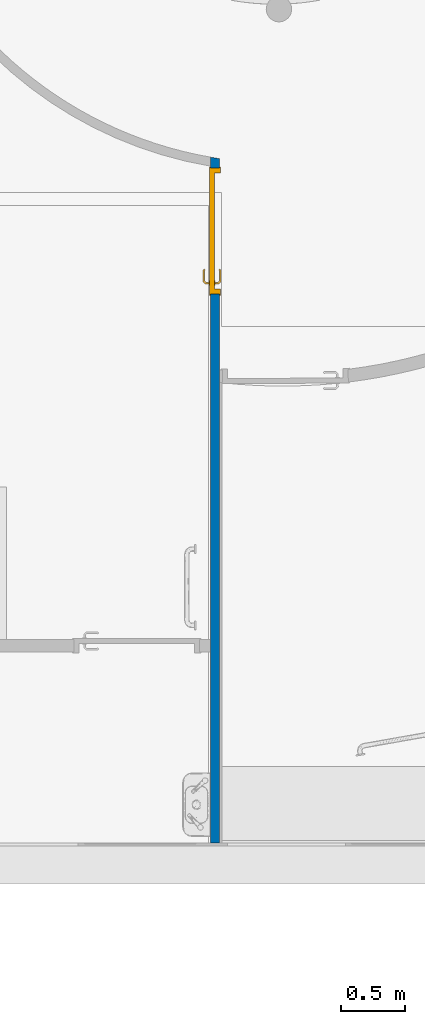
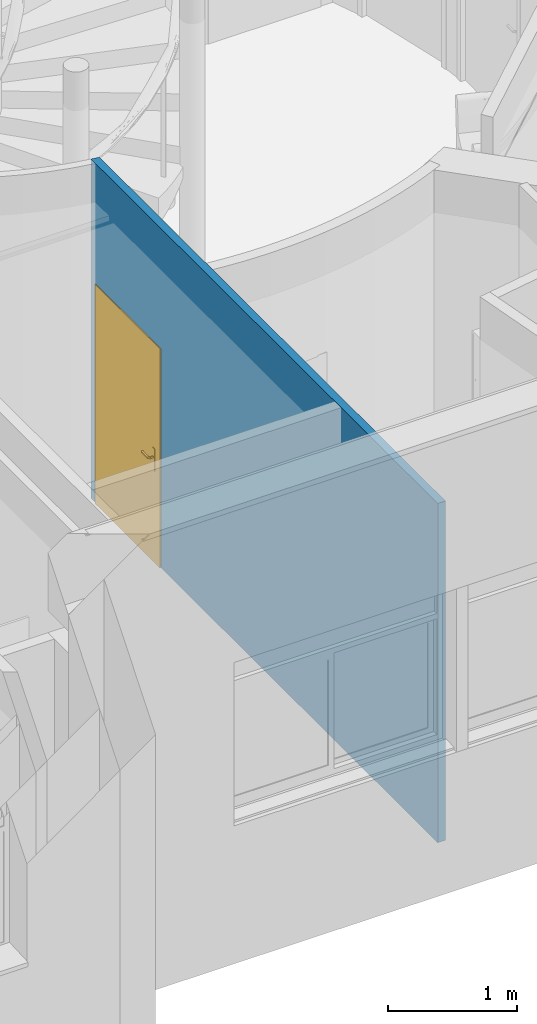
# One storey, part 43 of 137: 1 door, 1 wall, 1 opening.
"""IFC2X3 building model written with IfcOpenShell, lengths in centimetres."""

import ifcopenshell
import ifcopenshell.guid

model = None  # the IFC model being written
_history = None  # IfcOwnerHistory: only IFC2X3 demands one
_inside = {}  # id of a spatial element -> (the spatial element, [elements in it])
_under = {}  # id of a project, library or spatial element -> (it, [spatial elements below it])
_declared = {}  # id of a project -> (the project, [libraries it declares])
_typed = {}  # id of a type object -> (the type object, [elements of that type])
_made_of = {}  # id of a material, layer set ... -> (it, [elements and type objects made of it])


def new_model(schema):
    """Start an empty IFC model of exactly this schema.

    Asked for "IFC4X3", IfcOpenShell would pick the latest addendum, in which some entities
    have other attributes; the version numbers below select the first issue.
    IFC2X3 requires an IfcOwnerHistory on every rooted entity: one is made here for all.
    """
    global model, _history
    if schema == "IFC4X3":
        model = ifcopenshell.file(schema_version=(4, 3, 0, 0))
    else:
        model = ifcopenshell.file(schema=schema)
    _inside.clear()
    _under.clear()
    _declared.clear()
    _typed.clear()
    _made_of.clear()
    _history = None
    if model.schema == "IFC2X3":
        org = make("IfcOrganization", Name="unknown")
        user = make(
            "IfcPersonAndOrganization",
            ThePerson=make("IfcPerson", FamilyName="unknown"),
            TheOrganization=org,
        )
        app = make(
            "IfcApplication",
            ApplicationDeveloper=org,
            Version="unknown",
            ApplicationFullName="unknown",
            ApplicationIdentifier="unknown",
        )
        _history = make(
            "IfcOwnerHistory",
            OwningUser=user,
            OwningApplication=app,
            ChangeAction="ADDED",
            CreationDate=0,
        )
    return model


def make(cls, **values):
    """One entity of the class cls with the attributes given. An attribute that is None is left unset."""
    return model.create_entity(
        cls, **{name: value for name, value in values.items() if value is not None}
    )


def entity(cls, *values):
    """Any entity or typed value of the class cls, its attributes in the order of the schema. None: left unset."""
    e = model.create_entity(cls)
    for i, value in enumerate(values):
        if value is not None:
            e[i] = value
    return e


def rooted(cls, **values):
    """An entity with a GlobalId (a new one), such as an element, a storey or a relation."""
    return make(cls, GlobalId=ifcopenshell.guid.new(), OwnerHistory=_history, **values)


def si_unit(unit_type, name, prefix=None):
    """IfcSIUnit, for example si_unit("LENGTHUNIT", "METRE", prefix="MILLI")."""
    return make("IfcSIUnit", UnitType=unit_type, Prefix=prefix, Name=name)


def converted_unit(unit_type, name, factor, base, dimensions=None, offset=None):
    """IfcConversionBasedUnit, such as the inch: factor (a typed value) times the base unit."""
    return make(
        "IfcConversionBasedUnit"
        if offset is None
        else "IfcConversionBasedUnitWithOffset",
        ConversionOffset=offset,
        Dimensions=None
        if dimensions is None
        else entity("IfcDimensionalExponents", *dimensions),
        UnitType=unit_type,
        Name=name,
        ConversionFactor=make(
            "IfcMeasureWithUnit", ValueComponent=factor, UnitComponent=base
        ),
    )


def derived_unit(unit_type, elements):
    """IfcDerivedUnit: a product of units, each with its exponent."""
    return make(
        "IfcDerivedUnit",
        Elements=[
            make("IfcDerivedUnitElement", Unit=unit, Exponent=power)
            for unit, power in elements
        ],
        UnitType=unit_type,
    )


def assignment(units):
    """IfcUnitAssignment: the units of a project."""
    return None if units is None else make("IfcUnitAssignment", Units=units)


def point(xyz):
    """IfcCartesianPoint."""
    return None if xyz is None else make("IfcCartesianPoint", Coordinates=xyz)


def direction(xyz):
    """IfcDirection."""
    return None if xyz is None else make("IfcDirection", DirectionRatios=xyz)


def frame(location, z_axis=None, x_axis=None):
    """IfcAxis2Placement3D, a coordinate frame: its origin and axes. An axis left out is left unset."""
    return make(
        "IfcAxis2Placement3D",
        Location=point(location),
        Axis=direction(z_axis),
        RefDirection=direction(x_axis),
    )


def frame_2d(location, x_axis=None):
    """IfcAxis2Placement2D, a coordinate frame in the plane: its origin and x axis."""
    return make(
        "IfcAxis2Placement2D", Location=point(location), RefDirection=direction(x_axis)
    )


def origin():
    """The frame at (0, 0, 0) with its axes left unset."""
    return frame((0.0, 0.0, 0.0))


def place(relative_to, where):
    """IfcLocalPlacement: puts the frame where relative to a parent placement (None: the world)."""
    return make(
        "IfcLocalPlacement", PlacementRelTo=relative_to, RelativePlacement=where
    )


def context(
    kind, dimensions, precision=None, world=None, true_north=None, identifier=None
):
    """IfcGeometricRepresentationContext, for example the 3D "Model" context."""
    return make(
        "IfcGeometricRepresentationContext",
        ContextIdentifier=identifier,
        ContextType=kind,
        CoordinateSpaceDimension=dimensions,
        Precision=precision,
        WorldCoordinateSystem=world,
        TrueNorth=true_north,
    )


def subcontext(parent, identifier, kind, view, scale=None):
    """IfcGeometricRepresentationSubContext, for example "Body" below "Model"."""
    return make(
        "IfcGeometricRepresentationSubContext",
        ContextIdentifier=identifier,
        ContextType=kind,
        ParentContext=parent,
        TargetScale=scale,
        TargetView=view,
    )


def project(units=None, contexts=None):
    """IfcProject with its units and contexts."""
    return rooted(
        "IfcProject",
        Name="project",
        RepresentationContexts=contexts,
        UnitsInContext=assignment(units),
    )


def spatial(cls, under=None, at=None, **own):
    """A site, building, storey or space (cls), placed at a placement, below another one or the project."""
    s = rooted(cls, ObjectPlacement=at, **own)
    if under is not None:
        _under.setdefault(under.id(), (under, []))[1].append(s)
    return s


def polyline(points):
    """IfcPolyline through the points."""
    return make("IfcPolyline", Points=[point(p) for p in points])


def circle_curve(where, radius):
    """IfcCircle in the frame where."""
    return make("IfcCircle", Position=where, Radius=radius)


def parameter(value):
    """IfcParameterValue: where a trimmed curve begins or ends, as a parameter of its basis curve."""
    return model.create_entity("IfcParameterValue", value)


def trimmed(basis, trim1, trim2, sense, master):
    """IfcTrimmedCurve: the piece of a basis curve between two trims."""
    return make(
        "IfcTrimmedCurve",
        BasisCurve=basis,
        Trim1=trim1,
        Trim2=trim2,
        SenseAgreement=sense,
        MasterRepresentation=master,
    )


def segment(curve, same_sense, transition):
    """IfcCompositeCurveSegment."""
    return make(
        "IfcCompositeCurveSegment",
        Transition=transition,
        SameSense=same_sense,
        ParentCurve=curve,
    )


def composite_curve(segments, self_intersect=None):
    """IfcCompositeCurve: segments joined end to end."""
    return make("IfcCompositeCurve", Segments=segments, SelfIntersect=self_intersect)


def profile(cls, at=None, kind="AREA", **sizes):
    """A parametric profile (cls). Its sizes go by their IFC names, for example OverallWidth=200.0."""
    return make(cls, ProfileType=kind, Position=at, **sizes)


def rectangle(**sizes):
    """IfcRectangleProfileDef."""
    return profile("IfcRectangleProfileDef", **sizes)


def outline(outer, holes=None, kind="AREA"):
    """IfcArbitraryClosedProfileDef: a profile drawn as a closed curve; with holes, ...WithVoids."""
    if holes is None:
        return make("IfcArbitraryClosedProfileDef", ProfileType=kind, OuterCurve=outer)
    return make(
        "IfcArbitraryProfileDefWithVoids",
        ProfileType=kind,
        OuterCurve=outer,
        InnerCurves=holes,
    )


def extrude(swept, where, along, depth):
    """IfcExtrudedAreaSolid: the profile swept, set in the frame where, extruded along a direction by depth."""
    return make(
        "IfcExtrudedAreaSolid",
        SweptArea=swept,
        Position=where,
        ExtrudedDirection=direction(along),
        Depth=depth,
    )


def faces_of(points, faces, orient=None, outer=None):
    """IfcFace entities. A face is a list of loops; a loop is a list of indices into points, from 0.

    orient and outer hold one flag for each loop. By default every Orientation is true, the
    first loop of a face is its IfcFaceOuterBound and the others are IfcFaceBound.
    """
    made = []
    for i, loops in enumerate(faces):
        bounds = []
        for j, loop in enumerate(loops):
            is_outer = j == 0 if outer is None else outer[i][j]
            bounds.append(
                make(
                    "IfcFaceOuterBound" if is_outer else "IfcFaceBound",
                    Bound=make("IfcPolyLoop", Polygon=[points[k] for k in loop]),
                    Orientation=True if orient is None else orient[i][j],
                )
            )
        made.append(make("IfcFace", Bounds=bounds))
    return made


def faceted_brep(points, faces, orient=None, outer=None, voids=None):
    """IfcFacetedBrep: a solid bounded by flat faces; with voids (closed shells), ...WithVoids."""
    shared = [point(p) for p in points]
    hull = make("IfcClosedShell", CfsFaces=faces_of(shared, faces, orient, outer))
    if voids is None:
        return make("IfcFacetedBrep", Outer=hull)
    return make(
        "IfcFacetedBrepWithVoids",
        Outer=hull,
        Voids=[
            make(cls, CfsFaces=faces_of(shared, fs, o, b)) for cls, fs, o, b in voids
        ],
    )


def shape(context_of_items, identifier, shape_type, items):
    """IfcShapeRepresentation: the items that make up one representation, for example the "Body"."""
    return make(
        "IfcShapeRepresentation",
        ContextOfItems=context_of_items,
        RepresentationIdentifier=identifier,
        RepresentationType=shape_type,
        Items=items,
    )


def source(mapping_origin, context_of_items, identifier, shape_type, items):
    """IfcRepresentationMap: a shape defined once, which mapped items show again and again."""
    return make(
        "IfcRepresentationMap",
        MappingOrigin=mapping_origin,
        MappedRepresentation=shape(context_of_items, identifier, shape_type, items),
    )


def transform(
    local_origin,
    x_axis=None,
    y_axis=None,
    z_axis=None,
    scale=None,
    scale2=None,
    scale3=None,
    uniform=True,
):
    """IfcCartesianTransformationOperator3D, or its non-uniform kind. x_axis, y_axis, z_axis: its Axis1, 2, 3."""
    if uniform:
        return make(
            "IfcCartesianTransformationOperator3D",
            Axis1=direction(x_axis),
            Axis2=direction(y_axis),
            LocalOrigin=point(local_origin),
            Scale=scale,
            Axis3=direction(z_axis),
        )
    return make(
        "IfcCartesianTransformationOperator3DnonUniform",
        Axis1=direction(x_axis),
        Axis2=direction(y_axis),
        LocalOrigin=point(local_origin),
        Scale=scale,
        Axis3=direction(z_axis),
        Scale2=scale2,
        Scale3=scale3,
    )


def mapped(mapping_source, mapping_target):
    """IfcMappedItem: shows the shape of a source again, moved by a transform."""
    return make(
        "IfcMappedItem", MappingSource=mapping_source, MappingTarget=mapping_target
    )


def material(Name=None, Category=None):
    """IfcMaterial."""
    return make("IfcMaterial", Name=Name, Category=Category)


def material_list(materials):
    """IfcMaterialList."""
    return make("IfcMaterialList", Materials=materials)


def layer(
    of_material, thickness, ventilated=None, Name=None, Category=None, Priority=None
):
    """IfcMaterialLayer: one layer of a wall or slab, of a material (None: an air gap)."""
    return make(
        "IfcMaterialLayer",
        Material=of_material,
        LayerThickness=thickness,
        IsVentilated=ventilated,
        Name=Name,
        Category=Category,
        Priority=Priority,
    )


def layer_set(layers, Name=None):
    """IfcMaterialLayerSet."""
    return make("IfcMaterialLayerSet", MaterialLayers=layers, LayerSetName=Name)


def layer_usage(for_layer_set, set_direction, sense, offset, extent=None):
    """IfcMaterialLayerSetUsage: how a layer set lies in its element."""
    return make(
        "IfcMaterialLayerSetUsage",
        ForLayerSet=for_layer_set,
        LayerSetDirection=set_direction,
        DirectionSense=sense,
        OffsetFromReferenceLine=offset,
        ReferenceExtent=extent,
    )


def made_of(thing, what):
    """Note that an element or type object is made of a material, layer set ...; save() writes the relation."""
    if what is not None:
        _made_of.setdefault(what.id(), (what, []))[1].append(thing)
    return thing


def type_object(cls, material=None, **own):
    """A type object (cls), such as IfcWallType, which elements share."""
    return made_of(rooted(cls, **own), material)


def type_shapes(of_type, sources):
    """Give a type object the sources (RepresentationMaps) that its elements show as mapped items."""
    of_type.RepresentationMaps = sources


def element(
    cls,
    number,
    at=None,
    inside=None,
    cuts=None,
    type_object=None,
    material=None,
    context=None,
    identifier="Body",
    shape_type=None,
    held_by="IfcProductDefinitionShape",
    body=None,
    shapes=None,
    **own,
):
    """One element of the class cls, such as IfcWall. Its Tag is "e" and its number.

    at: its placement. inside: the storey or other place that contains it. cuts: it is an
    opening in that element (IfcRelVoidsElement). A single representation is given by context,
    identifier, shape_type and body (its items); several are given by shapes. held_by: the class
    of the entity that holds the representations. save() writes the other relations.
    """
    e = rooted(cls, Tag="e%d" % number, ObjectPlacement=at, **own)
    if body is not None:
        shapes = [shape(context, identifier, shape_type, body)]
    if shapes is not None:
        e.Representation = make(held_by, Representations=shapes)
    if inside is not None:
        _inside.setdefault(inside.id(), (inside, []))[1].append(e)
    if cuts is not None:
        rooted(
            "IfcRelVoidsElement", RelatingBuildingElement=cuts, RelatedOpeningElement=e
        )
    if type_object is not None:
        _typed.setdefault(type_object.id(), (type_object, []))[1].append(e)
    return made_of(e, material)


def fill(opening, filler):
    """IfcRelFillsElement: the door or window that sits in an opening."""
    return rooted(
        "IfcRelFillsElement",
        RelatingOpeningElement=opening,
        RelatedBuildingElement=filler,
    )


def aggregate(whole, parts):
    """IfcRelAggregates: a whole, such as a stair, and the parts it consists of."""
    return rooted("IfcRelAggregates", RelatingObject=whole, RelatedObjects=parts)


def save(model, path):
    """Write the relations noted so far, then the file.

    IfcRelAggregates (storeys below a building ...), IfcRelContainedInSpatialStructure (elements
    in a storey), IfcRelDefinesByType, IfcRelAssociatesMaterial and IfcRelDeclares: one each for
    every whole, place, type object, material and project.
    """
    for whole, parts in _under.values():
        aggregate(whole, parts)
    for where, things in _inside.values():
        rooted(
            "IfcRelContainedInSpatialStructure",
            RelatedElements=things,
            RelatingStructure=where,
        )
    for kind, things in _typed.values():
        rooted("IfcRelDefinesByType", RelatedObjects=things, RelatingType=kind)
    for what, things in _made_of.values():
        rooted("IfcRelAssociatesMaterial", RelatedObjects=things, RelatingMaterial=what)
    for by, libraries in _declared.values():
        rooted("IfcRelDeclares", RelatingContext=by, RelatedDefinitions=libraries)
    model.write(path)


model = new_model("IFC2X3")

# Units and contexts
model_context = context("Model", 3, precision=0.001, world=origin(), true_north=direction((6.12303176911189e-17, 1.0)))
body_context = subcontext(model_context, "Body", "Model", "MODEL_VIEW")
ifc_project = project(units=[si_unit("LENGTHUNIT", "METRE", prefix="CENTI"), si_unit("AREAUNIT", "SQUARE_METRE"), si_unit("VOLUMEUNIT", "CUBIC_METRE"), converted_unit("PLANEANGLEUNIT", "DEGREE", entity("IfcRatioMeasure", 0.0174532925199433), si_unit("PLANEANGLEUNIT", "RADIAN"), dimensions=[0, 0, 0, 0, 0, 0, 0]), si_unit("MASSUNIT", "GRAM", prefix="KILO"), si_unit("TIMEUNIT", "SECOND"), si_unit("FREQUENCYUNIT", "HERTZ"), si_unit("THERMODYNAMICTEMPERATUREUNIT", "DEGREE_CELSIUS"), derived_unit("THERMALTRANSMITTANCEUNIT", [(si_unit("MASSUNIT", "GRAM", prefix="KILO"), 1), (si_unit("THERMODYNAMICTEMPERATUREUNIT", "KELVIN"), -1), (si_unit("TIMEUNIT", "SECOND"), -3)]), derived_unit("VOLUMETRICFLOWRATEUNIT", [(si_unit("LENGTHUNIT", "METRE"), 3), (si_unit("TIMEUNIT", "SECOND"), -1)]), si_unit("ELECTRICCURRENTUNIT", "AMPERE"), si_unit("ELECTRICVOLTAGEUNIT", "VOLT"), si_unit("POWERUNIT", "WATT"), si_unit("FORCEUNIT", "NEWTON", prefix="KILO"), si_unit("ILLUMINANCEUNIT", "LUX"), si_unit("LUMINOUSFLUXUNIT", "LUMEN"), si_unit("LUMINOUSINTENSITYUNIT", "CANDELA"), derived_unit("USERDEFINED", [(si_unit("MASSUNIT", "GRAM", prefix="KILO"), -1), (si_unit("LENGTHUNIT", "METRE"), -2), (si_unit("TIMEUNIT", "SECOND"), 3), (si_unit("LUMINOUSFLUXUNIT", "LUMEN"), 1)]), derived_unit("LINEARVELOCITYUNIT", [(si_unit("LENGTHUNIT", "METRE"), 1), (si_unit("TIMEUNIT", "SECOND"), -1)]), si_unit("PRESSUREUNIT", "PASCAL"), derived_unit("USERDEFINED", [(si_unit("LENGTHUNIT", "METRE"), -2), (si_unit("MASSUNIT", "GRAM", prefix="KILO"), 1), (si_unit("TIMEUNIT", "SECOND"), -2)])], contexts=[model_context])

# Site, building, storey
site_placement = place(None, frame((8.62739174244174, -249.285249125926, 0.0)))
site = spatial("IfcSite", under=ifc_project, at=site_placement, Name="Default", CompositionType="ELEMENT")
building_placement = place(site_placement, origin())
building = spatial("IfcBuilding", under=site, at=building_placement, CompositionType="ELEMENT")
storey_placement = place(building_placement, origin())
storey = spatial("IfcBuildingStorey", under=building, at=storey_placement, Name="RDC", CompositionType="ELEMENT", Elevation=-8.82465566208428e-11)

# Wall, opening, door
ifc_material_1 = material(Name="Plâtre EXISTANT")
ifc_layer = layer(ifc_material_1, 7.0)
ifc_layer_set = layer_set([ifc_layer], Name="Mur de base:PLA EXISTANT 7")
ifc_layer_usage = layer_usage(ifc_layer_set, "AXIS2", "NEGATIVE", 3.5)
wall_type = type_object("IfcWallType", Name="Mur de base:PLA EXISTANT 7", PredefinedType="STANDARD", material=ifc_layer_set)
wall_placement = place(storey_placement, frame((2993.4048278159, -96.0197919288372, 0.0), z_axis=(0.0, 0.0, 1.0), x_axis=(0.0, 1.0, 0.0)))
wall = element("IfcWallStandardCase", 1, at=wall_placement, inside=storey, type_object=wall_type, material=ifc_layer_usage, Name="Mur de base:PLA EXISTANT 7", ObjectType="Mur de base:PLA EXISTANT 7", context=body_context, shape_type="SweptSolid", body=[
    extrude(outline(composite_curve([segment(polyline([(0.0, -3.50000000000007), (362.077859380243, -3.49999999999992)]), True, "CONTINUOUS"), segment(polyline([(362.077859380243, -3.49999999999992), (372.146783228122, -3.4999999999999)]), True, "CONTINUOUS"), segment(polyline([(372.146783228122, -3.4999999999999), (538.134864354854, -3.50000000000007)]), True, "CONTINUOUS"), segment(trimmed(circle_curve(frame_2d((849.63086753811, -50.3533900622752), x_axis=(0.0, -1.0)), 315.000000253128), [parameter(260.156177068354)], [parameter(261.446031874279)], True, "PARAMETER"), False, "CONTINUOUS"), segment(polyline([(539.268478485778, 3.50000000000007), (532.166204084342, 3.50000000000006)]), True, "CONTINUOUS"), segment(polyline([(532.166204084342, 3.50000000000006), (160.0, 3.49999999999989)]), True, "CONTINUOUS"), segment(polyline([(160.0, 3.49999999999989), (150.0, 3.49999999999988)]), True, "CONTINUOUS"), segment(polyline([(150.0, 3.49999999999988), (0.0, 3.50000000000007)]), True, "CONTINUOUS"), segment(polyline([(0.0, 3.50000000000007), (0.0, -3.50000000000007)]), True, "CONTINUOUS")], self_intersect=False)), origin(), (0.0, 0.0, 1.0), 322.000000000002),
])
opening_placement = place(wall_placement, frame((431.63637431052, -3.49999999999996, 0.0)))
opening = element("IfcOpeningElement", 2, at=opening_placement, cuts=wall, Name="Simple(R)-bois_MU:93x204cm_MU:1", ObjectType="Opening", context=body_context, shape_type="SweptSolid", body=[
    extrude(rectangle(XDim=206.999999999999, YDim=98.9999999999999, at=frame_2d((103.499999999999, 49.4999999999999), x_axis=(1.0, 0.0))), frame((0.0, 0.0, 0.0), z_axis=(0.0, 1.0, 0.0), x_axis=(0.0, 0.0, 1.0)), (0.0, 0.0, 1.0), 7.0),
])
ifc_material_2 = material(Name="Porte-Poignée_MU")
ifc_material_3 = material(Name="Porte-Cadre_MU")
ifc_material_4 = material(Name="Porte Panneau_MU")
ifc_material_list_1 = material_list([ifc_material_2, ifc_material_3, ifc_material_4])
ifc_material_list_2 = material_list([ifc_material_2, ifc_material_3, ifc_material_4])
door_style = type_object("IfcDoorStyle", Name="93x204cm_MU", ConstructionType="NOTDEFINED", OperationType="SINGLE_SWING_LEFT", ParameterTakesPrecedence=False, Sizeable=False, material=ifc_material_list_2)
shared_shape = source(origin(), body_context, "Body", "Brep", [
    faceted_brep([(91.7025298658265, 3.69999999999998, 100.778044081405), (91.2974701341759, 3.69999999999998, 100.778044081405), (90.8999999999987, 3.69999999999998, 100.699999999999), (90.9000000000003, 3.69999999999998, 99.3000000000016), (91.2974701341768, 3.69999999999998, 99.2219559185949), (91.7025298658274, 3.69999999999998, 99.2219559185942), (92.1000000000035, 3.69999999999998, 99.2999999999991), (92.1000000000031, 3.69999999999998, 100.699999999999), (90.8999999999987, 5.94852045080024, 100.699999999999), (90.8999999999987, 5.94852045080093, 99.3000000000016), (91.2974701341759, 6.1131579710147, 100.778044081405), (91.7025298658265, 6.2809392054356, 100.778044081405), (90.0838906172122, 7.89957845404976, 100.778044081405), (89.9161093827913, 7.49451872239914, 100.778044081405), (81.5793122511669, 7.49451872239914, 100.778044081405), (81.4115310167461, 7.89957845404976, 100.778044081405), (80.6451046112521, 7.13315204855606, 100.778044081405), (80.9315250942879, 6.84673156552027, 100.778044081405), (92.1000000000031, 6.44557672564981, 100.699999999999), (92.1000000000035, 6.44557672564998, 99.2999999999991), (91.7025298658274, 6.28093920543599, 99.2219559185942), (91.2974701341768, 6.11315797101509, 99.2219559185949), (89.9161093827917, 7.49451872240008, 99.2219559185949), (90.0838906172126, 7.8995784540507, 99.2219559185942), (81.4115310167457, 7.8995784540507, 99.2219559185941), (81.5793122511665, 7.49451872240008, 99.2219559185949), (80.9315250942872, 6.84673156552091, 99.2219559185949), (80.6451046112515, 7.13315204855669, 99.2219559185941), (89.7514718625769, 7.09704858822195, 100.699999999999), (89.7514718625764, 7.09704858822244, 99.3000000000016), (90.2485281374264, 8.29704858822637, 100.699999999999), (90.2485281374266, 8.29704858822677, 99.2999999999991), (85.7477108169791, 7.09704858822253, 100.699999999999), (81.7439497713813, 7.09704858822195, 100.699999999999), (81.7439497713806, 7.09704858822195, 99.3000000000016), (85.7477108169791, 7.09704858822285, 99.3000000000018), (85.747710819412, 7.71249275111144, 100.787811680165), (85.2399422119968, 8.29704858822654, 100.699999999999), (81.2468934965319, 8.29704858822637, 100.699999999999), (86.2554791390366, 8.29704858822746, 99.2999999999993), (81.2468934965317, 8.29704858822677, 99.2999999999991), (85.7477107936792, 7.71249274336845, 99.2121883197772), (80.3640507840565, 7.41420587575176, 100.699999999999), (80.364050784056, 7.41420587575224, 99.2999999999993), (81.2125789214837, 6.5656777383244, 99.3000000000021), (81.2125789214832, 6.56567773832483, 100.699999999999)], [[[0, 1, 2, 3, 4, 5, 6, 7]], [[8, 9, 3, 2]], [[1, 10, 8, 2]], [[1, 0, 11, 12, 13, 10]], [[14, 15, 16, 17]], [[7, 18, 11, 0]], [[18, 7, 6, 19]], [[6, 5, 20, 19]], [[5, 4, 21, 22, 23, 20]], [[24, 25, 26, 27]], [[4, 3, 9, 21]], [[28, 29, 9, 8]], [[8, 10, 13, 28]], [[18, 30, 12, 11]], [[31, 30, 18, 19]], [[19, 20, 23, 31]], [[21, 9, 29, 22]], [[29, 28, 32, 33, 34, 35]], [[36, 32, 13]], [[37, 38, 15]], [[37, 12, 30]], [[36, 12, 37]], [[14, 32, 36]], [[36, 15, 14]], [[28, 13, 32]], [[32, 14, 33]], [[12, 36, 13]], [[15, 36, 37]], [[30, 31, 39, 40, 38, 37]], [[23, 41, 39]], [[24, 39, 41]], [[39, 31, 23]], [[39, 24, 40]], [[22, 35, 41]], [[41, 23, 22]], [[41, 35, 25]], [[35, 22, 29]], [[34, 25, 35]], [[24, 41, 25]], [[17, 16, 42, 43, 27, 26, 44, 45]], [[45, 44, 34, 33]], [[33, 14, 17, 45]], [[15, 38, 42, 16]], [[43, 42, 38, 40]], [[24, 27, 43, 40]], [[34, 44, 26, 25]]]),
    faceted_brep([(91.2974701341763, -1.30000000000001, 100.778044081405), (91.7025298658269, -1.30000000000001, 100.778044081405), (92.1000000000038, -1.30000000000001, 100.699999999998), (92.1000000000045, -1.30000000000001, 99.2999999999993), (91.7025298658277, -1.30000000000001, 99.2219559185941), (91.2974701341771, -1.30000000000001, 99.2219559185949), (90.899999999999, -1.30000000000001, 99.3000000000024), (90.8999999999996, -1.30000000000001, 100.699999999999), (91.7025298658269, -3.90045754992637, 100.778044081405), (92.100000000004, -4.06509507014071, 100.699999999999), (91.2974701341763, -3.73267631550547, 100.778044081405), (89.9298602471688, -5.10028620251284, 100.778044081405), (90.0976414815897, -5.50534593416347, 100.778044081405), (81.4142453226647, -5.50534593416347, 100.778044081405), (81.5820265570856, -5.10028620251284, 100.778044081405), (80.9342394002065, -4.4524990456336, 100.778044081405), (80.6478189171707, -4.73891952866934, 100.778044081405), (90.8999999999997, -3.56803879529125, 100.699999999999), (90.899999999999, -3.56803879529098, 99.3000000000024), (91.2974701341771, -3.7326763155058, 99.2219559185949), (91.7025298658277, -3.9004575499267, 99.2219559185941), (90.09764148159, -5.50534593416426, 99.2219559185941), (89.9298602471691, -5.10028620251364, 99.2219559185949), (81.5820265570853, -5.10028620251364, 99.2219559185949), (81.4142453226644, -5.50534593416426, 99.2219559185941), (80.6478189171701, -4.73891952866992, 99.2219559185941), (80.9342394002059, -4.45249904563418, 99.2219559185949), (92.1000000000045, -4.06509507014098, 99.2999999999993), (90.2622790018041, -5.90281606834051, 100.699999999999), (89.7652227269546, -4.70281606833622, 100.699999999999), (89.7652227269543, -4.70281606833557, 99.3000000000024), (90.2622790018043, -5.90281606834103, 99.2999999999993), (85.7559433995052, -5.31828027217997, 100.787811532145), (86.2692302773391, -5.90281606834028, 100.699999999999), (81.2496078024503, -5.90281606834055, 100.699999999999), (85.7559434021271, -4.70281606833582, 100.699999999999), (81.7466640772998, -4.70281606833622, 100.699999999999), (85.7559436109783, -4.70281606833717, 99.3000000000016), (81.7466640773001, -4.70281606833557, 99.3000000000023), (85.7559434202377, -5.31828027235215, 99.2121884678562), (85.2426572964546, -5.90281606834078, 99.2999999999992), (81.2496078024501, -5.90281606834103, 99.2999999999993), (81.2152932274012, -4.17144521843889, 99.3000000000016), (80.366765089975, -5.01997335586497, 99.2999999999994), (80.3667650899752, -5.01997335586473, 100.699999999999), (81.2152932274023, -4.17144521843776, 100.699999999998)], [[[0, 1, 2, 3, 4, 5, 6, 7]], [[2, 1, 8, 9]], [[1, 0, 10, 11, 12, 8]], [[13, 14, 15, 16]], [[0, 7, 17, 10]], [[18, 17, 7, 6]], [[5, 19, 18, 6]], [[5, 4, 20, 21, 22, 19]], [[23, 24, 25, 26]], [[3, 27, 20, 4]], [[9, 27, 3, 2]], [[9, 8, 12, 28]], [[10, 17, 29, 11]], [[30, 29, 17, 18]], [[18, 19, 22, 30]], [[20, 27, 31, 21]], [[28, 31, 27, 9]], [[12, 32, 33]], [[13, 33, 32]], [[33, 28, 12]], [[33, 13, 34]], [[11, 35, 32]], [[32, 12, 11]], [[32, 35, 14]], [[35, 11, 29]], [[36, 14, 35]], [[13, 32, 14]], [[29, 30, 37, 38, 36, 35]], [[39, 37, 22]], [[40, 41, 24]], [[40, 21, 31]], [[39, 21, 40]], [[23, 37, 39]], [[39, 24, 23]], [[30, 22, 37]], [[37, 23, 38]], [[21, 39, 22]], [[24, 39, 40]], [[31, 28, 33, 34, 41, 40]], [[42, 26, 25, 43, 44, 16, 15, 45]], [[13, 16, 44, 34]], [[36, 45, 15, 14]], [[42, 45, 36, 38]], [[38, 23, 26, 42]], [[24, 41, 43, 25]], [[44, 43, 41, 34]]]),
    faceted_brep([(91.5000000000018, 3.19999999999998, 86.4641016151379), (92.5352761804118, 3.19999999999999, 86.6003983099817), (93.5000000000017, 3.19999999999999, 87.0), (93.5000000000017, 3.19999999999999, 108.0), (92.5352761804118, 3.19999999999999, 108.399601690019), (91.5000000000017, 3.19999999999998, 108.535898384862), (90.4647238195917, 3.19999999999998, 108.399601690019), (89.5000000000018, 3.19999999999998, 108.0), (89.5000000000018, 3.19999999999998, 87.0), (90.4647238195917, 3.19999999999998, 86.6003983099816), (91.5000000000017, 3.69999999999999, 108.535898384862), (92.5352761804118, 3.69999999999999, 108.399601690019), (93.5000000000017, 3.69999999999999, 108.0), (93.5000000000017, 3.69999999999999, 87.0), (92.5352761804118, 3.69999999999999, 86.6003983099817), (91.5000000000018, 3.69999999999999, 86.4641016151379), (90.4647238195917, 3.69999999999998, 86.6003983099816), (89.5000000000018, 3.69999999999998, 87.0), (89.5000000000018, 3.69999999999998, 108.0), (90.4647238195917, 3.69999999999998, 108.399601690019)], [[[0, 1, 2, 3, 4, 5, 6, 7, 8, 9]], [[10, 11, 12, 13, 14, 15, 16, 17, 18, 19]], [[6, 19, 18, 7]], [[5, 10, 19, 6]], [[4, 11, 10, 5]], [[4, 3, 12, 11]], [[12, 3, 2, 13]], [[1, 14, 13, 2]], [[0, 15, 14, 1]], [[9, 16, 15, 0]], [[9, 8, 17, 16]], [[17, 8, 7, 18]]]),
    faceted_brep([(91.5000000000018, -1.30000000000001, 86.4641016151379), (92.5352761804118, -1.30000000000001, 86.6003983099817), (93.5000000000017, -1.30000000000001, 87.0), (93.5000000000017, -1.30000000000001, 108.0), (92.5352761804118, -1.30000000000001, 108.399601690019), (91.5000000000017, -1.30000000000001, 108.535898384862), (90.4647238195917, -1.30000000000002, 108.399601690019), (89.5000000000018, -1.30000000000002, 108.0), (89.5000000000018, -1.30000000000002, 87.0), (90.4647238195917, -1.30000000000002, 86.6003983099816), (93.5000000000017, -0.800000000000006, 108.0), (93.5000000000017, -0.800000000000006, 87.0), (92.5352761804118, -0.800000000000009, 86.6003983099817), (91.5000000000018, -0.800000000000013, 86.4641016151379), (90.4647238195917, -0.800000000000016, 86.6003983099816), (89.5000000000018, -0.800000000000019, 87.0), (89.5000000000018, -0.800000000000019, 108.0), (90.4647238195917, -0.800000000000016, 108.399601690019), (91.5000000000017, -0.800000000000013, 108.535898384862), (92.5352761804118, -0.800000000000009, 108.399601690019)], [[[0, 1, 2, 3, 4, 5, 6, 7, 8, 9]], [[10, 11, 12, 13, 14, 15, 16, 17, 18, 19]], [[1, 12, 11, 2]], [[0, 13, 12, 1]], [[9, 14, 13, 0]], [[9, 8, 15, 14]], [[15, 8, 7, 16]], [[6, 17, 16, 7]], [[5, 18, 17, 6]], [[4, 19, 18, 5]], [[4, 3, 10, 19]], [[10, 3, 2, 11]]]),
    faceted_brep([(100.0, 0.0, 0.0), (101.0, 0.0, 0.0), (101.0, -0.799999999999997, 0.0), (97.0, -0.799999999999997, 0.0), (97.0, 3.2, 0.0), (96.0, 3.2, 0.0), (96.0, 7.80000000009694, 0.0), (101.0, 7.80000000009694, 0.0), (101.0, 7.0, 0.0), (100.0, 7.0, 0.0), (100.0, 7.0, 207.0), (100.0, 0.0, 207.0), (101.0, 7.0, 208.0), (0.0, 7.0, 208.0), (0.0, 7.0, 0.0), (1.0, 7.0, 0.0), (1.0, 7.0, 207.0), (101.0, 7.80000000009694, 208.0), (96.0, 7.80000000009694, 203.0), (5.0, 7.80000000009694, 203.0), (5.0, 7.80000000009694, 0.0), (0.0, 7.80000000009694, 0.0), (0.0, 7.80000000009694, 208.0), (96.0, 3.2, 203.0), (97.0, 3.2, 204.0), (4.0, 3.2, 204.0), (4.0, 3.2, 0.0), (5.0, 3.2, 0.0), (5.0, 3.2, 203.0), (97.0, -0.799999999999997, 204.0), (101.0, -0.799999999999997, 208.0), (0.0, -0.799999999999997, 208.0), (0.0, -0.799999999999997, 0.0), (4.0, -0.799999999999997, 0.0), (4.0, -0.799999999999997, 204.0), (101.0, 0.0, 208.0), (1.0, 0.0, 207.0), (1.0, 0.0, 0.0), (0.0, 0.0, 0.0), (0.0, 0.0, 208.0)], [[[0, 1, 2, 3, 4, 5, 6, 7, 8, 9]], [[9, 10, 11, 0]], [[8, 12, 13, 14, 15, 16, 10, 9]], [[7, 17, 12, 8]], [[6, 18, 19, 20, 21, 22, 17, 7]], [[5, 23, 18, 6]], [[4, 24, 25, 26, 27, 28, 23, 5]], [[3, 29, 24, 4]], [[2, 30, 31, 32, 33, 34, 29, 3]], [[1, 35, 30, 2]], [[0, 11, 36, 37, 38, 39, 35, 1]], [[16, 15, 37, 36]], [[37, 15, 14, 21, 20, 27, 26, 33, 32, 38]], [[22, 21, 14, 13]], [[28, 27, 20, 19]], [[34, 33, 26, 25]], [[39, 38, 32, 31]], [[10, 16, 36, 11]], [[17, 22, 13, 12]], [[23, 28, 19, 18]], [[29, 34, 25, 24]], [[35, 39, 31, 30]]]),
    faceted_brep([(97.0, -0.799999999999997, 204.0), (4.0, -0.799999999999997, 204.0), (4.0, -0.799999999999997, 0.0), (97.0, -0.799999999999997, 0.0), (97.0, 3.2, 204.0), (97.0, 3.2, 0.0), (4.0, 3.2, 0.0), (4.0, 3.2, 204.0)], [[[0, 1, 2, 3]], [[4, 5, 6, 7]], [[3, 5, 4, 0]], [[2, 6, 5, 3]], [[1, 7, 6, 2]], [[0, 4, 7, 1]]]),
])
type_shapes(door_style, [shared_shape])
door_placement = place(opening_placement, frame((100.0, 7.0, 0.0), z_axis=(0.0, 0.0, 1.0), x_axis=(-1.0, 0.0, 0.0)))
door = element("IfcDoor", 3, at=door_placement, inside=storey, type_object=door_style, material=ifc_material_list_1, Name="Simple(R)-bois_MU:93x204cm_MU", ObjectType="93x204cm_MU", OverallHeight=206.999999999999, OverallWidth=98.9999999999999, context=body_context, shape_type="MappedRepresentation", body=[
    mapped(shared_shape, transform((0.0, 0.0, 0.0), scale=1.0)),
])
fill(opening, door)

save(model, "model.ifc")
